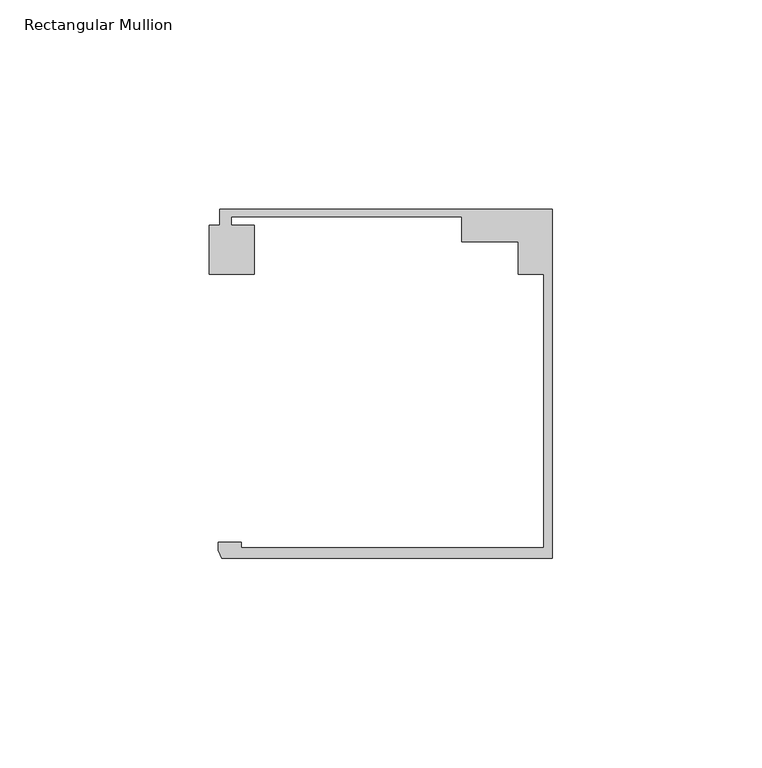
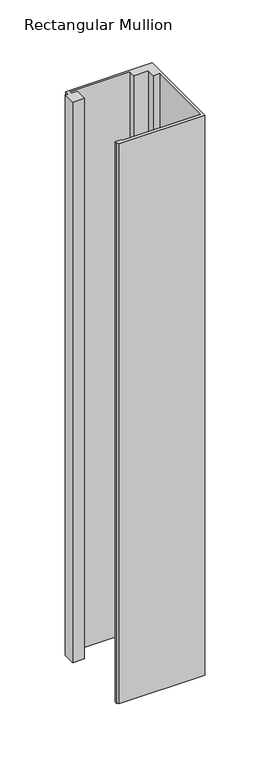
"""IFC4 building model written with IfcOpenShell, lengths in millimetres: member geometry, Rectangular Mullion : Danpal_Airpt_End-Mullion_B1."""

from ifc_helpers import new_model, si_unit, frame, origin, place, context, project, spatial, polyline, outline, extrude, source, transform, mapped, element, save


def rectangular_mullion_6e9d6120(model_context):
    return source(origin(), model_context, "Body", "SweptSolid", [
        extrude(outline(polyline([(-74.2474668, -74.9940824), (-2.0000001, -74.9940824), (-2.0000001, -9.7188964), (-8.1, -9.7188964), (-8.1, -1.8818054), (-21.5478166, -1.8818054), (-21.5478166, 4.0051512), (-76.6478166, 4.0051512), (-76.6478166, 2.0051513), (-71.1433532, 2.0051513), (-71.1433532, -9.6875514), (-81.8592324, -9.6875514), (-81.8592324, 2.0051513), (-79.3474874, 2.0051513), (-79.3474874, 5.8051514), (0.0, 5.8051514), (0.0, -77.4940825), (-78.8515009, -77.4940825), (-79.7784606, -75.5472671), (-79.7784606, -73.6940824), (-74.2474668, -73.6940824), (-74.2474668, -74.9940824)])), frame((0.0, 0.0, -543.1466714), z_axis=(0.0, 0.0, 1.0), x_axis=(1.0, 0.0, 0.0)), (0.0, 0.0, 1.0), 543.1466714),
    ])


if __name__ == "__main__":
    model = new_model("IFC4")
    model_context = context("Model", 3, world=origin())
    ifc_project = project(units=[si_unit("LENGTHUNIT", "METRE", prefix="MILLI")], contexts=[model_context])
    site = spatial("IfcSite", under=ifc_project)
    building = spatial("IfcBuilding", under=site)
    placement = place(None, origin())
    rectangular_mullion_shape = rectangular_mullion_6e9d6120(model_context)
    element("IfcMember", 1, ObjectType="Rectangular Mullion : Danpal_Airpt_End-Mullion_B1", at=placement, inside=building, context=model_context, shape_type="MappedRepresentation", body=[
        mapped(rectangular_mullion_shape, transform((0.0, 0.0, 0.0), x_axis=(1.0, 0.0, 0.0), y_axis=(0.0, 1.0, 0.0), z_axis=(0.0, 0.0, 1.0))),
    ])
    save(model, "model.ifc")
